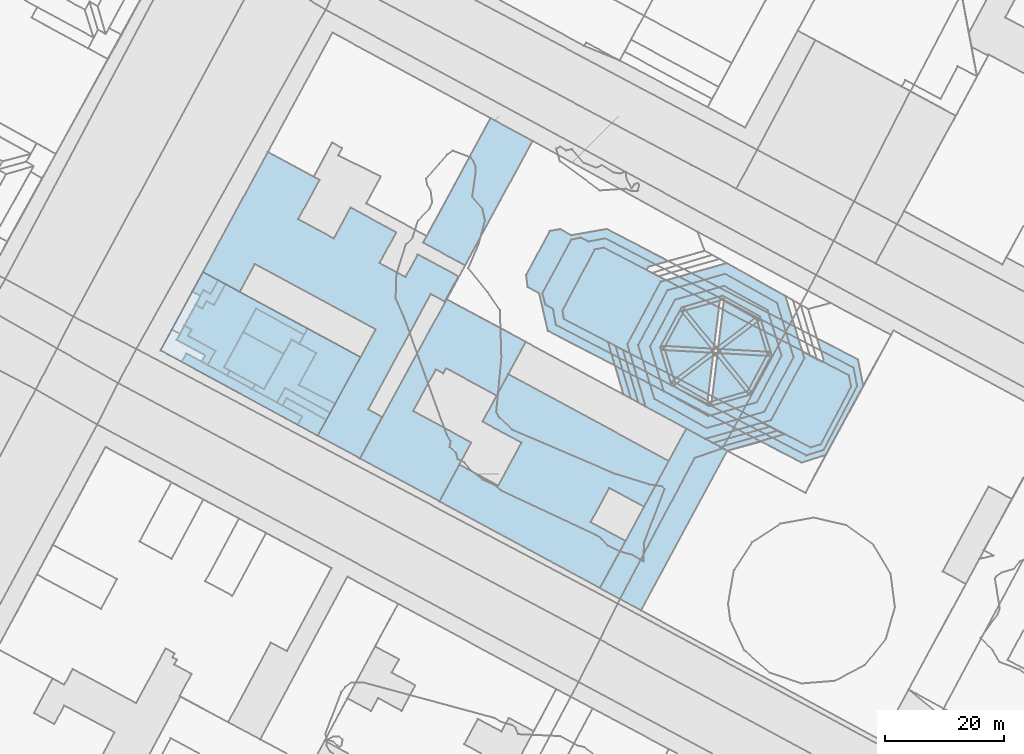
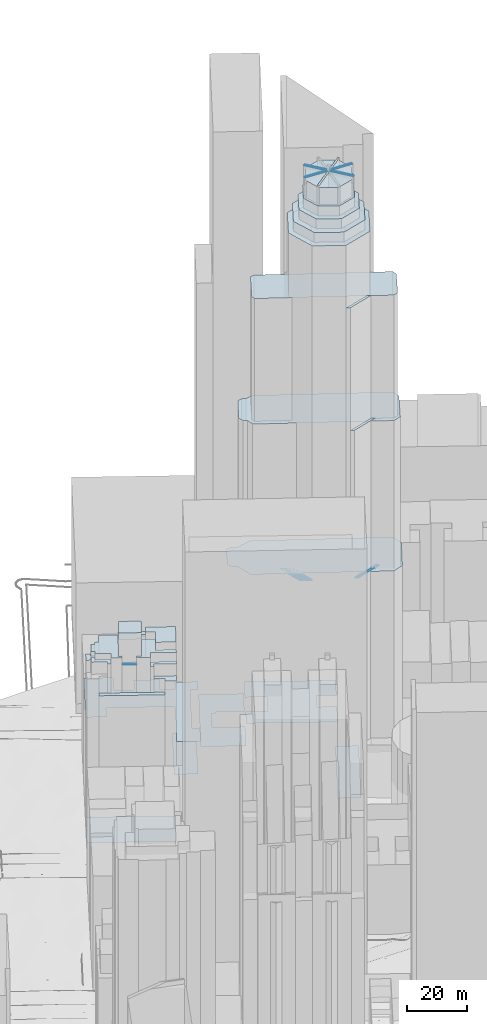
# Not in any storey, part 37 of 76: 35 roofs.
"""IFC2X3 model written with IfcOpenShell, lengths in metres."""

from ifc_helpers import new_model, si_unit, frame, origin_with_axes, place, context, subcontext, project, faceted_brep, element, save


model = new_model("IFC2X3")

# Units and contexts
model_context = context("Model", 3, precision=1e-05, world=origin_with_axes())
body_context = subcontext(model_context, "Body", "Model", "MODEL_VIEW")
ifc_project = project(units=[si_unit("AREAUNIT", "SQUARE_METRE"), si_unit("LENGTHUNIT", "METRE")], contexts=[model_context])

# Roofs
roof_1_placement = place(None, frame((159.9721915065, 264.969762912, 19.7613864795), z_axis=(0.0, 0.0, 1.0), x_axis=(1.0, 0.0, 0.0)))
element("IfcRoof", 1, at=roof_1_placement, Name="Toiture 0", ShapeType="NOTDEFINED", context=body_context, shape_type="Brep", body=[
    faceted_brep([(3.3387795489, 6.1561492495, 54.7000007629), (0.0, 0.0, 54.7000007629), (26.8862979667, -14.5533802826, 54.7000007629), (31.1586807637, -6.6544117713, 54.7000007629), (25.3312162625, -3.502510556, 54.7000007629), (28.4385534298, 2.2290739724, 54.7000007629), (34.2660149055, -0.9228247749, 54.7000007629), (38.4143590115, 6.7526611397, 54.7000007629), (11.5365531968, 21.3060973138, 54.7000007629), (7.2227399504, 13.3400447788, 54.7000007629), (9.8628457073, 2.6237495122, 54.7000007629), (13.7552421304, 9.807746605, 54.7000007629)], [[[0, 1, 2]], [[2, 3, 4]], [[5, 6, 7]], [[7, 8, 9]], [[10, 0, 2]], [[5, 7, 9]], [[11, 10, 2]], [[5, 9, 11]], [[11, 2, 4]], [[4, 5, 11]]]),
])
roof_2_placement = place(None, frame((133.701994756, 280.9958944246, 22.2284312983), z_axis=(0.0, 0.0, 1.0), x_axis=(1.0, 0.0, 0.0)))
element("IfcRoof", 2, at=roof_2_placement, Name="Toiture 0", ShapeType="NOTDEFINED", context=body_context, shape_type="Brep", body=[
    faceted_brep([(0.686095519, 1.2514244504, 70.0), (0.0, 0.0, 70.0), (3.3046733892, -1.8045757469, 70.0), (2.5274119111, -3.2013890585, 70.0), (5.8745466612, -5.0276748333, 70.0), (7.3210219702, -2.3796322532, 70.0)], [[[0, 1, 2]], [[2, 3, 4]], [[5, 0, 2]], [[2, 4, 5]]]),
])
roof_3_placement = place(None, frame((132.7675039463, 281.5068423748, 22.0591971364), z_axis=(0.0, 0.0, 1.0), x_axis=(1.0, 0.0, 0.0)))
element("IfcRoof", 3, at=roof_3_placement, Name="Toiture 0", ShapeType="NOTDEFINED", context=body_context, shape_type="Brep", body=[
    faceted_brep([(1.3392038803, 2.43585198, 75.0), (0.0, 0.0, 75.0), (0.9344908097, -0.5109479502, 75.0), (1.6205863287, 0.7404765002, 75.0), (8.2555127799, -2.8905802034, 75.0), (8.9001799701, -1.7062499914, 75.0)], [[[0, 1, 2]], [[3, 4, 5]], [[0, 2, 3]], [[3, 5, 0]]]),
])
roof_4_placement = place(None, frame((136.4219742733, 284.4691979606, 20.8510870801), z_axis=(0.0, 0.0, 1.0), x_axis=(1.0, 0.0, 0.0)))
element("IfcRoof", 4, at=roof_4_placement, Name="Toiture 0", ShapeType="NOTDEFINED", context=body_context, shape_type="Brep", body=[
    faceted_brep([(2.9178819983, 5.3296808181, 83.0), (0.0, 0.0, 83.0), (6.088815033, -3.1266972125, 83.0), (10.3290123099, 4.6386442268, 83.0), (1.4688163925, 9.4428815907, 83.0), (0.063512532, 6.8841359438, 83.0)], [[[0, 1, 2]], [[2, 3, 4]], [[4, 5, 0]], [[0, 2, 4]]]),
])
roof_5_placement = place(None, frame((128.6389686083, 283.7459380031, 21.7688219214), z_axis=(0.0, 0.0, 1.0), x_axis=(1.0, 0.0, 0.0)))
element("IfcRoof", 5, at=roof_5_placement, Name="Toiture 0", ShapeType="NOTDEFINED", context=body_context, shape_type="Brep", body=[
    faceted_brep([(0.4547989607, 0.8157486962, 79.0), (0.0, 0.0, 79.0), (4.128535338, -2.2390956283, 79.0), (5.4677392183, 0.1967563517, 79.0), (13.0287153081, -3.9453456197, 79.0), (13.8718206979, -2.403437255, 79.0), (7.7830056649, 0.7232599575, 79.0), (10.7008876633, 6.0529407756, 79.0), (6.5976755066, 8.2923269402, 79.0), (1.9668380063, 0.0006475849, 79.0)], [[[0, 1, 2]], [[3, 4, 5]], [[6, 7, 8]], [[9, 0, 2]], [[3, 5, 6]], [[6, 8, 9]], [[9, 2, 3]], [[3, 6, 9]]]),
])
roof_6_placement = place(None, frame((127.1263243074, 293.3318134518, 21.914507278), z_axis=(0.0, 0.0, 1.0), x_axis=(1.0, 0.0, 0.0)))
element("IfcRoof", 6, at=roof_6_placement, Name="Toiture 0", ShapeType="NOTDEFINED", context=body_context, shape_type="Brep", body=[
    faceted_brep([(2.1408822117, 3.9106630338, 81.0), (0.0, 0.0, 81.0), (6.7281427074, -3.6632865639, 81.0), (8.1103198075, -1.2935485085, 81.0), (9.3591624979, -1.9784795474, 81.0), (10.1940852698, -0.4588713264, 81.0)], [[[0, 1, 2]], [[3, 4, 5]], [[0, 2, 3]], [[3, 5, 0]]]),
])
roof_7_placement = place(None, frame((113.2505831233, 290.2618220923, 20.8510870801), z_axis=(0.0, 0.0, 1.0), x_axis=(1.0, 0.0, 0.0)))
element("IfcRoof", 7, at=roof_7_placement, Name="Toiture 0", ShapeType="NOTDEFINED", context=body_context, shape_type="Brep", body=[
    faceted_brep([(7.1070834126, 13.1277116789, 6.0), (0.0, 0.0, 6.0), (26.3259582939, -14.293602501, 6.0), (33.5004034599, -1.1539799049, 6.0)], [[[0, 1, 2]], [[2, 3, 0]]]),
])
roof_8_placement = place(None, frame((123.8777892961, 287.3987743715, 22.3844927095), z_axis=(0.0, 0.0, 1.0), x_axis=(1.0, 0.0, 0.0)))
element("IfcRoof", 8, at=roof_8_placement, Name="Toiture 0", ShapeType="NOTDEFINED", context=body_context, shape_type="Brep", body=[
    faceted_brep([(3.2485350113, 5.9330390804, 87.9000015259), (0.0, 0.0, 87.9000015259), (6.7280173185, -3.6521887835, 87.9000015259), (9.9766777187, 2.2697525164, 87.9000015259)], [[[0, 1, 2]], [[2, 3, 0]]]),
])
roof_9_placement = place(None, frame((124.4423978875, 286.0286544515, 23.0098590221), z_axis=(0.0, 0.0, 1.0), x_axis=(1.0, 0.0, 0.0)))
element("IfcRoof", 9, at=roof_9_placement, Name="Toiture 0", ShapeType="NOTDEFINED", context=body_context, shape_type="Brep", body=[
    faceted_brep([(0.4463590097, 0.8156503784, 75.0), (0.0, 0.0, 75.0), (4.1965707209, -2.2827164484, 75.0), (4.6513696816, -1.4669677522, 75.0)], [[[0, 1, 2]], [[2, 3, 0]]]),
])
roof_10_placement = place(None, frame((116.8013041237, 288.3490732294, 22.6187660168), z_axis=(0.0, 0.0, 1.0), x_axis=(1.0, 0.0, 0.0)))
element("IfcRoof", 10, at=roof_10_placement, Name="Toiture 0", ShapeType="NOTDEFINED", context=body_context, shape_type="Brep", body=[
    faceted_brep([(0.7771349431, 1.4079120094, 64.0), (0.0, 0.0, 64.0), (19.4281025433, -10.5545678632, 64.0), (20.2053640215, -9.1577545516, 64.0)], [[[0, 1, 2]], [[2, 3, 0]]]),
])
roof_11_placement = place(None, frame((115.9822453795, 292.0033020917, 23.3452877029), z_axis=(0.0, 0.0, 1.0), x_axis=(1.0, 0.0, 0.0)))
element("IfcRoof", 11, at=roof_11_placement, Name="Toiture 0", ShapeType="NOTDEFINED", context=body_context, shape_type="Brep", body=[
    faceted_brep([(4.7571032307, -2.5759699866, 75.0), (4.1786660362, -3.648506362, 75.0), (5.1896332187, -4.2029764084, 75.0), (1.8832649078, 0.6547063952, 75.0), (2.4784536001, 1.7385394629, 75.0), (1.2720721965, 2.4017622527, 75.0), (6.4789719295, -1.8343194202, 75.0), (0.0, 0.0, 75.0)], [[[0, 1, 2]], [[3, 4, 5]], [[0, 2, 6]], [[3, 5, 7]], [[7, 0, 6]], [[6, 3, 7]]]),
])
roof_12_placement = place(None, frame((117.2543175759, 294.4050643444, 21.8182038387), z_axis=(0.0, 0.0, 1.0), x_axis=(1.0, 0.0, 0.0)))
element("IfcRoof", 12, at=roof_12_placement, Name="Toiture 0", ShapeType="NOTDEFINED", context=body_context, shape_type="Brep", body=[
    faceted_brep([(1.8928382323, 3.4636882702, 79.0), (0.0, 0.0, 79.0), (1.2063814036, -0.6632227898, 79.0), (0.6111927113, -1.7470558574, 79.0), (5.206899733, -4.2360816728, 79.0), (3.9175610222, -6.6047386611, 79.0), (7.1880803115, -8.3764098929, 79.0), (7.6344393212, -7.5607595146, 79.0), (6.6234717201, -7.0062899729, 79.0), (12.0128889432, 2.8374121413, 79.0), (20.0660920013, -1.532122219, 79.0), (20.6364730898, -0.4929847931, 79.0), (4.9492373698, 3.4103780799, 79.0), (3.7259757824, 4.073404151, 79.0), (3.0481909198, 2.8331797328, 79.0), (6.8834997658, 6.9411625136, 79.0)], [[[0, 1, 2]], [[2, 3, 4]], [[4, 5, 6]], [[6, 7, 8]], [[9, 10, 11]], [[12, 13, 14]], [[14, 0, 2]], [[4, 6, 8]], [[9, 11, 15]], [[12, 14, 2]], [[4, 8, 9]], [[9, 15, 12]], [[12, 2, 4]], [[4, 9, 12]]]),
])
roof_13_placement = place(None, frame((120.3576665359, 303.3895337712, 19.1918452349), z_axis=(0.0, 0.0, 1.0), x_axis=(1.0, 0.0, 0.0)))
element("IfcRoof", 13, at=roof_13_placement, Name="Toiture 0", ShapeType="NOTDEFINED", context=body_context, shape_type="Brep", body=[
    faceted_brep([(10.8837545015, 20.0994069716, 48.2999992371), (0.0, 0.0, 48.2999992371), (6.1586360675, -3.3257392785, 48.2999992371), (28.9305528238, -9.6114631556, 48.2999992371), (19.2188748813, -27.4213141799, 48.2999992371), (26.294638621, -31.2137773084, 48.2999992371), (30.029914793, -24.3091752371, 48.2999992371), (27.6853086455, -23.0374588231, 48.2999992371), (38.1557868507, -3.6977675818, 48.2999992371), (40.5002598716, -4.9583798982, 48.2999992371), (42.7894344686, -0.7351197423, 48.2999992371), (36.0020774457, 2.9385544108, 48.2999992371), (33.927701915, -0.8825259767, 48.2999992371), (29.5868752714, 1.4651129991, 48.2999992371), (32.3883820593, 6.6380157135, 48.2999992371), (24.7261469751, 10.7789291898, 48.2999992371), (15.9697266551, 8.8342025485, 48.2999992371), (19.5314868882, 15.4148184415, 48.2999992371), (8.6958773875, 1.3444821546, 48.2999992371), (21.9330768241, 5.6061274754, 48.2999992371)], [[[0, 1, 2]], [[3, 4, 5]], [[5, 6, 7]], [[8, 9, 10]], [[10, 11, 12]], [[13, 14, 15]], [[16, 17, 0]], [[0, 2, 18]], [[3, 5, 7]], [[8, 10, 12]], [[13, 15, 19]], [[16, 0, 18]], [[3, 7, 8]], [[8, 12, 13]], [[19, 16, 18]], [[18, 3, 8]], [[8, 13, 19]], [[19, 18, 8]]]),
])
roof_14_placement = place(None, frame((146.6523051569, 272.1757564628, 19.3891240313), z_axis=(0.0, 0.0, 1.0), x_axis=(1.0, 0.0, 0.0)))
element("IfcRoof", 14, at=roof_14_placement, Name="Toiture 0", ShapeType="NOTDEFINED", context=body_context, shape_type="Brep", body=[
    faceted_brep([(0.0, 0.0, 45.9000015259), (13.3198863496, -7.2059935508, 45.9000015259), (18.6586321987, 2.6371463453, 45.9000015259), (12.7252657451, 14.9027882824, 45.9000015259), (13.982422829, 14.2290601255, 45.9000015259), (14.4368310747, 15.0781131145, 45.9000015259), (22.9062179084, 10.4914052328, 45.9000015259), (27.7984552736, 19.5299999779, 45.9000015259), (8.931952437, 7.9086886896, 45.9000015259), (14.5389731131, 26.6256464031, 45.9000015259)], [[[0, 1, 2]], [[3, 4, 5]], [[5, 6, 7]], [[0, 2, 8]], [[3, 5, 7]], [[9, 0, 8]], [[3, 7, 9]], [[9, 8, 3]]]),
])
roof_15_placement = place(None, frame((190.7505875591, 290.2965312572, 21.0925550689), z_axis=(0.0, 0.0, 1.0), x_axis=(1.0, 0.0, 0.0)))
element("IfcRoof", 15, at=roof_15_placement, Name="Toiture 0", ShapeType="NOTDEFINED", context=body_context, shape_type="Brep", body=[
    faceted_brep([(1.2400209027, -0.6517176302, 90.0), (0.0, 0.0, 90.0), (2.5927444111, -8.8183526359, 90.0), (3.7905656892, -9.4705605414, 90.0)], [[[0, 1, 2]], [[2, 3, 0]]]),
])
roof_16_placement = place(None, frame((189.5021266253, 290.948150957, 21.1265616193), z_axis=(0.0, 0.0, 1.0), x_axis=(1.0, 0.0, 0.0)))
element("IfcRoof", 16, at=roof_16_placement, Name="Toiture 0", ShapeType="NOTDEFINED", context=body_context, shape_type="Brep", body=[
    faceted_brep([(1.2484609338, -0.6516196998, 90.0), (0.0, 0.0, 90.0), (2.5839152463, -8.7851489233, 90.0), (3.8412053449, -9.4699723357, 90.0)], [[[0, 1, 2]], [[2, 3, 0]]]),
])
roof_17_placement = place(None, frame((188.2449675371, 291.6218742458, 21.1651408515), z_axis=(0.0, 0.0, 1.0), x_axis=(1.0, 0.0, 0.0)))
element("IfcRoof", 17, at=roof_17_placement, Name="Toiture 0", ShapeType="NOTDEFINED", context=body_context, shape_type="Brep", body=[
    faceted_brep([(1.2571590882, -0.6737232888, 90.0), (0.0, 0.0, 90.0), (2.5839135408, -8.7851493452, 90.0), (3.8410743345, -9.4588722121, 90.0)], [[[0, 1, 2]], [[2, 3, 0]]]),
])
roof_18_placement = place(None, frame((204.4971683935, 275.4350208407, 21.6849039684), z_axis=(0.0, 0.0, 1.0), x_axis=(1.0, 0.0, 0.0)))
element("IfcRoof", 18, at=roof_18_placement, Name="Toiture 0", ShapeType="NOTDEFINED", context=body_context, shape_type="Brep", body=[
    faceted_brep([(9.490542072, 2.6971955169, 200.0), (0.0, 0.0, 200.0), (1.2741729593, -0.6846250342, 200.0), (10.7814669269, 2.0238691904, 200.0)], [[[0, 1, 2]], [[2, 3, 0]]]),
])
roof_19_placement = place(None, frame((205.7713413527, 274.7503958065, 21.7965636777), z_axis=(0.0, 0.0, 1.0), x_axis=(1.0, 0.0, 0.0)))
element("IfcRoof", 19, at=roof_19_placement, Name="Toiture 0", ShapeType="NOTDEFINED", context=body_context, shape_type="Brep", body=[
    faceted_brep([(9.5072939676, 2.7084942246, 150.0), (0.0, 0.0, 150.0), (1.2572926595, -0.6848211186, 150.0), (10.7897787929, 2.0350699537, 150.0)], [[[0, 1, 2]], [[2, 3, 0]]]),
])
roof_20_placement = place(None, frame((207.0286340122, 274.0655746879, 21.8143831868), z_axis=(0.0, 0.0, 1.0), x_axis=(1.0, 0.0, 0.0)))
element("IfcRoof", 20, at=roof_20_placement, Name="Toiture 0", ShapeType="NOTDEFINED", context=body_context, shape_type="Brep", body=[
    faceted_brep([(9.5324861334, 2.7198910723, 90.0), (0.0, 0.0, 90.0), (1.1722447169, -0.630298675, 90.0), (10.6620135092, 2.1335061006, 90.0)], [[[0, 1, 2]], [[2, 3, 0]]]),
])
roof_21_placement = place(None, frame((193.2816809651, 291.1364254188, 247.2874462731), z_axis=(0.0, 0.0, 1.0), x_axis=(1.0, 0.0, 0.0)))
element("IfcRoof", 21, at=roof_21_placement, Name="Toiture 0", ShapeType="NOTDEFINED", context=body_context, shape_type="Brep", body=[
    faceted_brep([(4.9071471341, 9.2053187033, 4.0), (0.0, 0.0, 4.0), (2.7471243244, -9.0274996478, 4.0), (11.4476540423, -13.8890368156, 4.0), (21.1319324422, -11.1562809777, 4.0), (26.0391907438, -1.9620488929, 4.0), (23.2920400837, 7.0654426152, 4.0), (14.5913971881, 11.9380665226, 4.0)], [[[0, 1, 2]], [[2, 3, 4]], [[4, 5, 6]], [[6, 7, 0]], [[0, 2, 4]], [[4, 6, 0]]]),
])
roof_22_placement = place(None, frame((200.4835497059, 296.8268073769, 260.0739856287), z_axis=(0.0, 0.0, 1.0), x_axis=(1.0, 0.0, 0.0)))
element("IfcRoof", 22, at=roof_22_placement, Name="Toiture 0", ShapeType="NOTDEFINED", context=body_context, shape_type="Brep", body=[
    faceted_brep([(0.5434525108, 0.450409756, 8.0), (0.0, 0.0, 8.0), (11.1849786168, -13.8032627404, 8.0), (11.7370008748, -13.3638547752, 8.0)], [[[0, 1, 2]], [[2, 3, 0]]]),
])
roof_23_placement = place(None, frame((198.9155746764, 285.0290795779, 259.6639688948), z_axis=(0.0, 0.0, 1.0), x_axis=(1.0, 0.0, 0.0)))
element("IfcRoof", 23, at=roof_23_placement, Name="Toiture 0", ShapeType="NOTDEFINED", context=body_context, shape_type="Brep", body=[
    faceted_brep([(14.1487960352, 10.8004996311, 8.0), (0.0, 0.0, 8.0), (0.4284669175, -0.5501306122, 8.0), (14.5773925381, 10.2392690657, 8.0)], [[[0, 1, 2]], [[2, 3, 0]]]),
])
roof_24_placement = place(None, frame((197.6677213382, 290.7100275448, 259.7077898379), z_axis=(0.0, 0.0, 1.0), x_axis=(1.0, 0.0, 0.0)))
element("IfcRoof", 24, at=roof_24_placement, Name="Toiture 0", ShapeType="NOTDEFINED", context=body_context, shape_type="Brep", body=[
    faceted_brep([(3.3045880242, 6.1890768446, 7.0), (0.0, 0.0, 7.0), (1.7900951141, -5.8522788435, 7.0), (7.5763793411, -9.0934656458, 7.0), (13.9625274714, -7.2983490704, 7.0), (17.2671074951, -1.1092659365, 7.0), (15.47687195, 4.7541101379, 7.0), (9.6905946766, 7.9952907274, 7.0)], [[[0, 1, 2]], [[2, 3, 4]], [[4, 5, 6]], [[6, 7, 0]], [[0, 2, 4]], [[4, 6, 0]]]),
])
roof_25_placement = place(None, frame((197.3599497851, 290.3178698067, 260.1111568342), z_axis=(0.0, 0.0, 1.0), x_axis=(1.0, 0.0, 0.0)))
element("IfcRoof", 25, at=roof_25_placement, Name="Toiture 0", ShapeType="NOTDEFINED", context=body_context, shape_type="Brep", body=[
    faceted_brep([(0.0425095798, 0.6999365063, 8.0), (0.0, 0.0, 8.0), (17.7976823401, -1.0031756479, 8.0), (17.8317499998, -0.3033371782, 8.0)], [[[0, 1, 2]], [[2, 3, 0]]]),
])
roof_26_placement = place(None, frame((196.9493964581, 290.7793907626, 255.631798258), z_axis=(0.0, 0.0, 1.0), x_axis=(1.0, 0.0, 0.0)))
element("IfcRoof", 26, at=roof_26_placement, Name="Toiture 0", ShapeType="NOTDEFINED", context=body_context, shape_type="Brep", body=[
    faceted_brep([(3.5688676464, 6.6917512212, 4.0), (0.0, 0.0, 4.0), (1.9480859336, -6.3722479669, 4.0), (8.2102521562, -9.8854576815, 4.0), (15.134770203, -7.9286484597, 4.0), (18.7037575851, -1.2479906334, 4.0), (16.7555291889, 5.1353539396, 4.0), (10.4935002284, 8.6374556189, 4.0)], [[[0, 1, 2]], [[2, 3, 4]], [[4, 5, 6]], [[6, 7, 0]], [[0, 2, 4]], [[4, 6, 0]]]),
])
roof_27_placement = place(None, frame((195.292913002, 290.9488680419, 251.4761187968), z_axis=(0.0, 0.0, 1.0), x_axis=(1.0, 0.0, 0.0)))
element("IfcRoof", 27, at=roof_27_placement, Name="Toiture 0", ShapeType="NOTDEFINED", context=body_context, shape_type="Brep", body=[
    faceted_brep([(4.1720986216, 7.8089905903, 4.0), (0.0, 0.0, 4.0), (2.308204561, -7.5782069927, 4.0), (9.6747051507, -11.6891998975, 4.0), (17.8446396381, -9.3959413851, 4.0), (22.0165962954, -1.5758398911, 4.0), (19.7083730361, 6.0023613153, 4.0), (12.3418838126, 10.1133441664, 4.0)], [[[0, 1, 2]], [[2, 3, 4]], [[4, 5, 6]], [[6, 7, 0]], [[0, 2, 4]], [[4, 6, 0]]]),
])
roof_28_placement = place(None, frame((191.4815843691, 291.3153359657, 21.0925550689), z_axis=(0.0, 0.0, 1.0), x_axis=(1.0, 0.0, 0.0)))
element("IfcRoof", 28, at=roof_28_placement, Name="Toiture 0", ShapeType="NOTDEFINED", context=body_context, shape_type="Brep", body=[
    faceted_brep([(5.568169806, 10.4342520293, 226.0), (0.0, 0.0, 226.0), (3.0595688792, -10.4893652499, 226.0), (13.0155840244, -15.880315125, 226.0), (24.0711095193, -12.7430327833, 226.0), (29.6392561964, -2.3087624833, 226.0), (26.4887462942, 8.0130012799, 226.0), (16.6070361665, 13.549126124, 226.0)], [[[0, 1, 2]], [[2, 3, 4]], [[4, 5, 6]], [[6, 7, 0]], [[0, 2, 4]], [[4, 6, 0]]]),
])
roof_29_placement = place(None, frame((174.515196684, 302.8642732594, 21.3701181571), z_axis=(0.0, 0.0, 1.0), x_axis=(1.0, 0.0, 0.0)))
element("IfcRoof", 29, at=roof_29_placement, Name="Toiture 0", ShapeType="NOTDEFINED", context=body_context, shape_type="Brep", body=[
    faceted_brep([(3.9490017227, 7.3956015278, 90.0), (0.0, 0.0, 90.0), (0.2596837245, -2.0064896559, 90.0), (2.2055322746, -3.1051971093, 90.0), (3.6457642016, -9.3612290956, 90.0), (46.1429906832, -31.4157509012, 90.0), (50.1375301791, -30.1147343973, 90.0), (56.4684852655, -18.4947444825, 90.0), (55.6076025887, -14.152673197, 90.0), (13.4416773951, 7.7280088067, 90.0), (7.5533148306, 6.6825504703, 90.0), (5.6591417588, 7.693039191, 90.0)], [[[0, 1, 2]], [[3, 4, 5]], [[5, 6, 7]], [[7, 8, 9]], [[10, 11, 0]], [[0, 2, 3]], [[3, 5, 7]], [[7, 9, 10]], [[10, 0, 3]], [[3, 7, 10]]]),
])
roof_30_placement = place(None, frame((177.2431205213, 299.8428648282, 43.5388270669), z_axis=(0.0, 0.0, 1.0), x_axis=(1.0, 0.0, 0.0)))
element("IfcRoof", 30, at=roof_30_placement, Name="Toiture 0", ShapeType="NOTDEFINED", context=body_context, shape_type="Brep", body=[
    faceted_brep([(4.8257265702, 8.9490093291, 128.0), (0.0, 0.0, 128.0), (0.5291270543, -1.9478459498, 128.0), (1.7866712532, -2.6548732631, 128.0), (2.2654927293, -5.358257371, 128.0), (44.1689292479, -27.1643259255, 128.0), (47.0793212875, -26.2756005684, 128.0), (52.7120119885, -15.5852207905, 128.0), (52.1358092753, -12.4943931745, 128.0), (10.4871850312, 9.1813647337, 128.0), (7.7499180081, 8.6499384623, 128.0), (6.3919957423, 9.2780819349, 128.0)], [[[0, 1, 2]], [[3, 4, 5]], [[5, 6, 7]], [[7, 8, 9]], [[10, 11, 0]], [[0, 2, 3]], [[3, 5, 7]], [[7, 9, 10]], [[10, 0, 3]], [[3, 7, 10]]]),
])
roof_31_placement = place(None, frame((180.6026452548, 296.9509249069, 171.5778831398), z_axis=(0.0, 0.0, 1.0), x_axis=(1.0, 0.0, 0.0)))
element("IfcRoof", 31, at=roof_31_placement, Name="Toiture 0", ShapeType="NOTDEFINED", context=body_context, shape_type="Brep", body=[
    faceted_brep([(5.3850764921, 10.2100697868, 50.0), (0.0, 0.0, 50.0), (0.2620602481, -1.4846557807, 50.0), (41.5201615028, -22.9651549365, 50.0), (43.2446066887, -22.4454958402, 50.0), (48.3487420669, -12.7604679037, 50.0), (47.9978790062, -10.8993697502, 50.0), (6.8926514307, 10.5051540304, 50.0)], [[[0, 1, 2]], [[2, 3, 4]], [[4, 5, 6]], [[6, 7, 0]], [[0, 2, 4]], [[4, 6, 0]]]),
])
roof_32_placement = place(None, frame((186.8584894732, 250.4163826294, 21.3845065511), z_axis=(0.0, 0.0, 1.0), x_axis=(1.0, 0.0, 0.0)))
element("IfcRoof", 32, at=roof_32_placement, Name="Toiture 0", ShapeType="NOTDEFINED", context=body_context, shape_type="Brep", body=[
    faceted_brep([(14.4700635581, 26.7359484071, 22.0), (0.0, 0.0, 22.0), (6.8724714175, -3.7281693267, 22.0), (21.3423892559, 23.0188933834, 22.0)], [[[0, 1, 2]], [[2, 3, 0]]]),
])
roof_33_placement = place(None, frame((157.2485817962, 308.2924157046, 19.5637782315), z_axis=(0.0, 0.0, 1.0), x_axis=(1.0, 0.0, 0.0)))
element("IfcRoof", 33, at=roof_33_placement, Name="Toiture 0", ShapeType="NOTDEFINED", context=body_context, shape_type="Brep", body=[
    faceted_brep([(11.288572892, 20.8480210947, 8.8000001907), (0.0, 0.0, 8.8000001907), (7.0337999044, -3.8151381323, 8.8000001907), (18.3222304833, 17.0439945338, 8.8000001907)], [[[0, 1, 2]], [[2, 3, 0]]]),
])
roof_34_placement = place(None, frame((118.5811882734, 300.0826284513, 23.3439021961), z_axis=(0.0, 0.0, 1.0), x_axis=(1.0, 0.0, 0.0)))
element("IfcRoof", 34, at=roof_34_placement, Name="Toiture 0", ShapeType="NOTDEFINED", context=body_context, shape_type="Brep", body=[
    faceted_brep([(1.7764782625, 3.3069053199, 70.0), (0.0, 0.0, 70.0), (1.3506384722, -0.7281601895, 70.0), (1.8710248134, 0.2548837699, 70.0), (3.0602671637, -0.3863330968, 70.0), (4.3418081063, 1.9267222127, 70.0)], [[[0, 1, 2]], [[3, 4, 5]], [[0, 2, 3]], [[3, 5, 0]]]),
])
roof_35_placement = place(None, frame((119.1471558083, 297.8687526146, 23.2334152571), z_axis=(0.0, 0.0, 1.0), x_axis=(1.0, 0.0, 0.0)))
element("IfcRoof", 35, at=roof_35_placement, Name="Toiture 0", ShapeType="NOTDEFINED", context=body_context, shape_type="Brep", body=[
    faceted_brep([(1.3050572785, 2.4687596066, 73.0), (0.0, 0.0, 73.0), (1.1553526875, -0.6305085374, 73.0), (1.83313755, 0.6097158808, 73.0), (3.0563991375, -0.0533101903, 73.0), (4.9906615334, 3.4774742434, 73.0), (3.7758405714, 4.1405980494, 73.0), (2.4942996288, 1.8275427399, 73.0)], [[[0, 1, 2]], [[3, 4, 5]], [[5, 6, 7]], [[7, 0, 2]], [[3, 5, 7]], [[7, 2, 3]]]),
])

save(model, "model.ifc")
